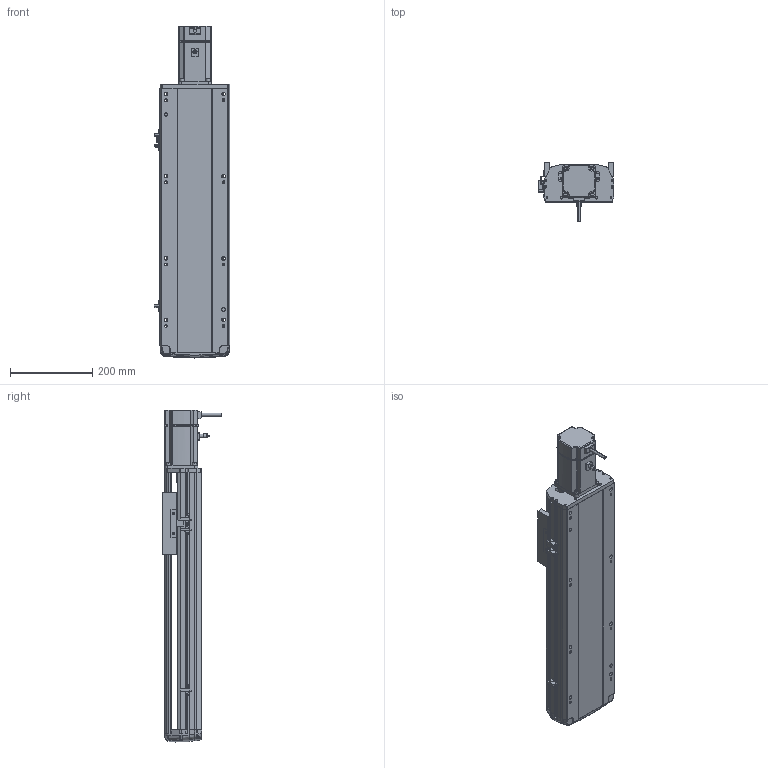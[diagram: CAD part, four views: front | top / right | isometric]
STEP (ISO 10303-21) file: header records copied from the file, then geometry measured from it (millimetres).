
FILE_DESCRIPTION (( 'STEP AP214' ), '1' );
FILE_NAME ('RTH17-XX-400-E-M75-C4.STEP', '2025-10-24T09:36:54', ( '' ), ( '' ), 'SwSTEP 2.0', 'SolidWorks 2018', '' );
FILE_SCHEMA (( 'AUTOMOTIVE_DESIGN' ));
Length unit declared in the file: millimetre
Products named in the file (9): N_RTH-L-012 感应片(外置)^RTH17-XX-XX-E-M75-C4（方程式）; N_RTH17-E-011底座^RTH17-XX-XX-E-M75-C4（方程式）; N_RTH17-GY-001P^RTH17-XX-XX-E-M75-C4（方程式）; N_RTH17-E-007上盖^RTH17-XX-XX-E-M75-C4（方程式）; N_RTH17-E-004丝杆螺母连接座^RTH17-XX-XX-E-M75-C4（方程式）; N_M75^RTH17-XX-XX-E-M75-C4（方程式）; N_OMRON EE-SX672 換覜ん^RTH17-XX-XX-E-M75-C4ㄗ源最宒ㄘ; RTH17-XX-400-E-M75-C4; N_RTH17-E-008-P75电机板^RTH17-XX-XX-E-M75-C4（方程式）
Assembly tree (10 placements, depth 2):
  RTH17-XX-400-E-M75-C4
    N_RTH17-E-011底座^RTH17-XX-XX-E-M75-C4（方程式）
    N_RTH17-E-007上盖^RTH17-XX-XX-E-M75-C4（方程式）
    N_M75^RTH17-XX-XX-E-M75-C4（方程式）
    N_RTH17-E-008-P75电机板^RTH17-XX-XX-E-M75-C4（方程式）
    N_OMRON EE-SX672 換覜ん^RTH17-XX-XX-E-M75-C4ㄗ源最宒ㄘ  x3
    N_RTH-L-012 感应片(外置)^RTH17-XX-XX-E-M75-C4（方程式）
    N_RTH17-E-004丝杆螺母连接座^RTH17-XX-XX-E-M75-C4（方程式）
    N_RTH17-GY-001P^RTH17-XX-XX-E-M75-C4（方程式）
Bounding box: 183.5 x 145.7 x 808.27 mm (x, y, z)
Volume: 6096395.1 mm3; surface area: 816370.1 mm2
Topology: 9 solids, 11 shells, 1748 faces, 4821 edges, 3122 vertices
Faces by surface type: plane 820, cylinder 514, bspline 377, cone 28, torus 9
Entity records: 50998 total; most frequent: CARTESIAN_POINT 20155, ORIENTED_EDGE 6666, DIRECTION 5597, EDGE_CURVE 3337, VERTEX_POINT 2158, AXIS2_PLACEMENT_3D 1895, VECTOR 1807, LINE 1807
